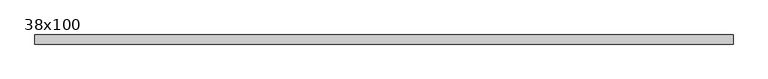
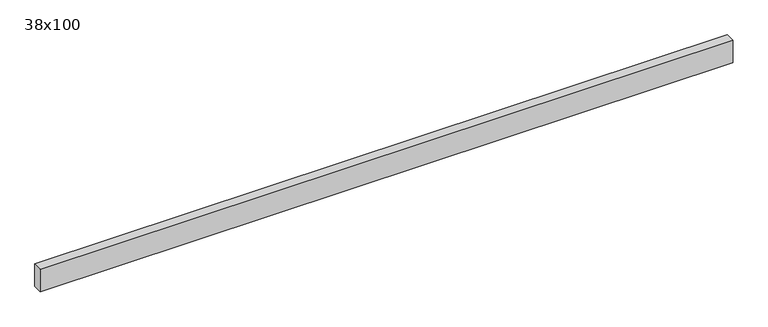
"""IFC4 building model written with IfcOpenShell, lengths in millimetres: beam geometry, Poutre - Bois de construction de dimensions courantes : 38x100."""

from ifc_helpers import new_model, si_unit, frame, origin, place, context, project, spatial, polyline, outline, extrude, source, transform, mapped, element, save


def beam_38x100_f3f79371(model_context):
    return source(origin(), model_context, "Body", "SweptSolid", [
        extrude(outline(polyline([(1451.5, 19.05), (1451.5, -19.05), (-1451.5, -19.05), (-1451.5, 19.05), (1451.5, 19.05)])), frame((0.0, 0.0, -50.0), z_axis=(0.0, 0.0, 1.0), x_axis=(1.0, 0.0, 0.0)), (0.0, 0.0, 1.0), 100.0),
    ])


if __name__ == "__main__":
    model = new_model("IFC4")
    model_context = context("Model", 3, world=origin())
    ifc_project = project(units=[si_unit("LENGTHUNIT", "METRE", prefix="MILLI")], contexts=[model_context])
    site = spatial("IfcSite", under=ifc_project)
    building = spatial("IfcBuilding", under=site)
    placement = place(None, origin())
    beam_38x100_shape = beam_38x100_f3f79371(model_context)
    element("IfcBeam", 1, ObjectType="Poutre - Bois de construction de dimensions courantes : 38x100", at=placement, inside=building, context=model_context, shape_type="MappedRepresentation", body=[
        mapped(beam_38x100_shape, transform((0.0, 0.0, 0.0), x_axis=(1.0, 0.0, 0.0), y_axis=(0.0, 1.0, 0.0), z_axis=(0.0, 0.0, 1.0))),
    ])
    save(model, "model.ifc")
